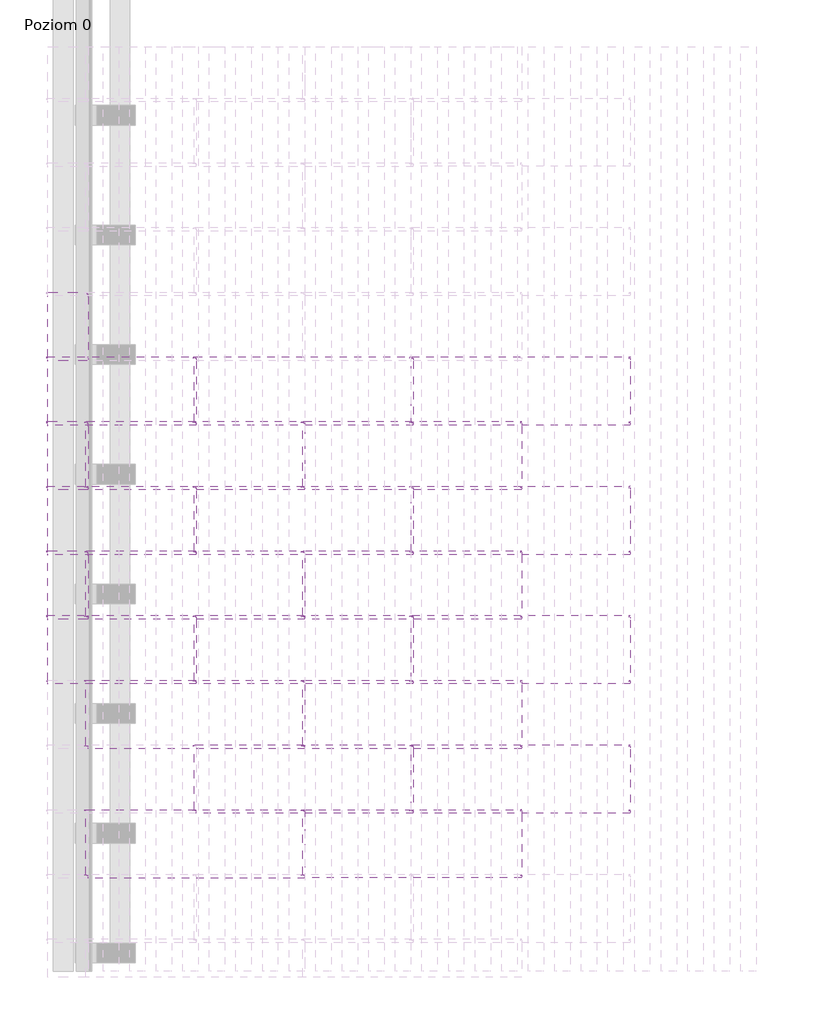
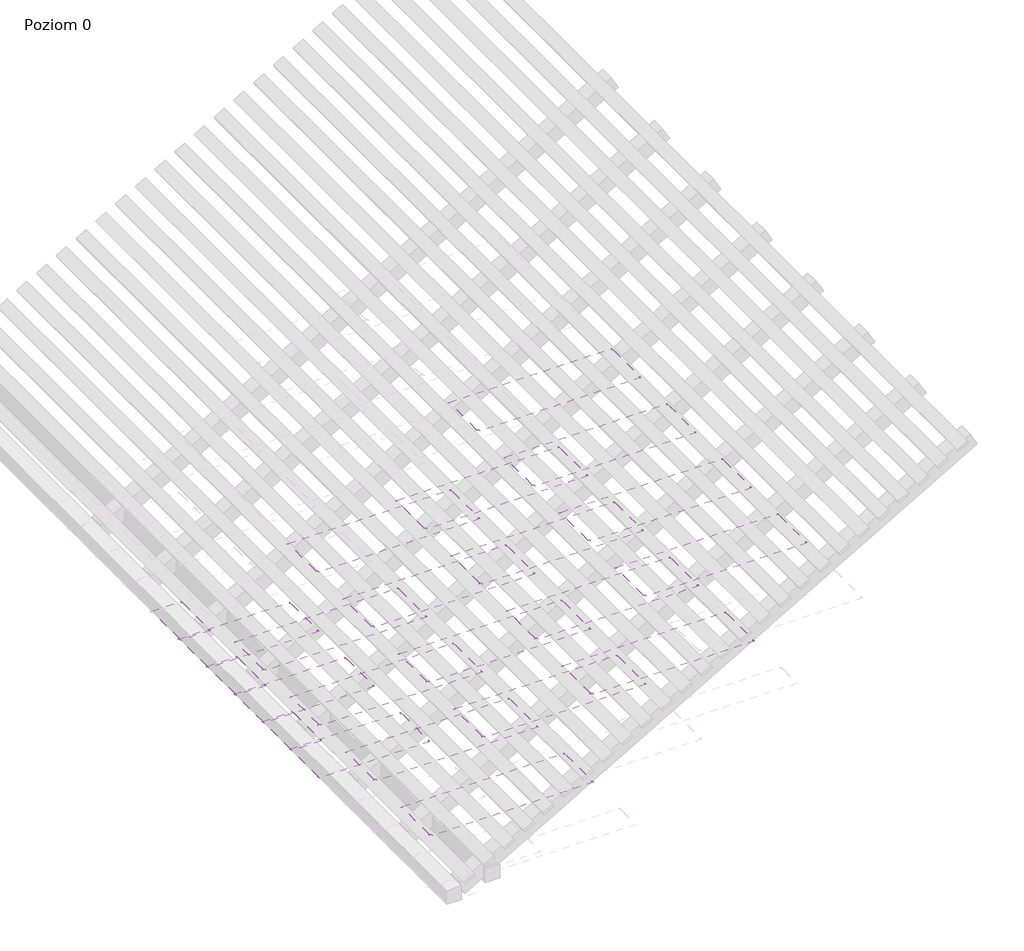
# One storey, part 2 of 4: 22 coverings.
"""IFC4 building model written with IfcOpenShell, lengths in millimetres."""

from ifc_helpers import new_model, si_unit, point, frame, frame_2d, origin, place, context, project, spatial, polyline, circle_curve, trimmed, segment, composite_curve, outline, extrude, transform, mapped, element, save
from components import covering_053faf2b

model = new_model("IFC4")

# Units and contexts
model_context = context("Model", 3, world=origin())
ifc_project = project(units=[si_unit("LENGTHUNIT", "METRE", prefix="MILLI")], contexts=[model_context])

# Site, building, storey
site = spatial("IfcSite", under=ifc_project)
building = spatial("IfcBuilding", under=site)
storey = spatial("IfcBuildingStorey", under=building, Name="Poziom 0", Elevation=0.0)

# Coverings
placement = place(None, origin())
element("IfcCovering", 1, ObjectType="Zintegrowany dach fotowoltaiczny FIT L.P (pojedynczy arkusz) : Zintegrowany dach fotowoltaiczny FIT L.P (pojedynczy arkusz)", at=placement, inside=storey, context=model_context, shape_type="SweptSolid", body=[
    extrude(outline(composite_curve([segment(polyline([(288.0882052, -764.3254516), (270.8006701, -764.3254516)]), True, "CONTINUOUS"), segment(trimmed(circle_curve(frame_2d((270.8006701, -767.1254516)), 2.8), [point((270.8006701, -764.3254516))], [point((268.0006701, -767.1254516))], True, "CARTESIAN"), True, "CONTINUOUS"), segment(polyline([(268.0006701, -767.1254516), (268.0006701, -784.9194843)]), True, "CONTINUOUS"), segment(trimmed(circle_curve(frame_2d((266.3873432, -784.7092324)), 1.6269694), [point((268.0006701, -784.9194843))], [point((264.9716419, -785.5109926))], False, "CARTESIAN"), True, "CONTINUOUS"), segment(polyline([(264.9716419, -785.5109926), (259.5147607, -772.9478756)]), True, "CONTINUOUS"), segment(trimmed(circle_curve(frame_2d((261.4782052, -771.7500084)), 2.3), [point((259.5147607, -772.9478756))], [point((260.424286, -769.705686))], False, "CARTESIAN"), True, "CONTINUOUS"), segment(polyline([(260.424286, -769.705686), (262.0969852, -769.0301624)]), True, "CONTINUOUS"), segment(trimmed(circle_curve(frame_2d((261.7598094, -768.195264)), 0.9004126), [point((262.0969852, -769.0301624))], [point((262.5492444, -767.7622108))], True, "CARTESIAN"), True, "CONTINUOUS"), segment(polyline([(262.5492444, -767.7622108), (260.6639723, -764.3254516), (-231.6728378, -764.3254516), (-233.6728378, -766.3254516), (-256.2638552, -766.3254516)]), True, "CONTINUOUS"), segment(trimmed(circle_curve(frame_2d((-256.2638552, -767.1498016)), 0.82435), [point((-256.2638552, -766.3254516))], [point((-257.0882052, -767.1498016))], True, "CARTESIAN"), True, "CONTINUOUS"), segment(polyline([(-257.0882052, -767.1498016), (-257.0882052, -785.8254516)]), True, "CONTINUOUS"), segment(trimmed(circle_curve(frame_2d((-259.0882052, -785.8254516)), 2.0), [point((-257.0882052, -785.8254516))], [point((-259.0882052, -787.8254516))], False, "CARTESIAN"), True, "CONTINUOUS"), segment(polyline([(-259.0882052, -787.8254516), (-267.9117948, -787.8254516)]), True, "CONTINUOUS"), segment(trimmed(circle_curve(frame_2d((-267.9117948, -785.8254516)), 2.0), [point((-267.9117948, -787.8254516))], [point((-269.9117948, -785.8254516))], False, "CARTESIAN"), True, "CONTINUOUS"), segment(polyline([(-269.9117948, -785.8254516), (-269.9117948, -771.7500084)]), True, "CONTINUOUS"), segment(trimmed(circle_curve(frame_2d((-266.1117948, -771.7500084)), 3.8), [point((-269.9117948, -771.7500084))], [point((-267.8014079, -768.3463036))], False, "CARTESIAN"), True, "CONTINUOUS"), segment(trimmed(circle_curve(frame_2d((-268.3170787, -767.3074911)), 1.1597619), [point((-267.8014079, -768.3463036))], [point((-267.171889, -767.1242207))], True, "CARTESIAN"), True, "CONTINUOUS"), segment(polyline([(-267.171889, -767.1242207), (-268.0083048, -765.5994754), (-267.1315567, -765.1185255), (-266.299575, -766.6351876)]), True, "CONTINUOUS"), segment(trimmed(circle_curve(frame_2d((-267.8170787, -767.3074911)), 1.6597619), [point((-266.299575, -766.6351876))], [point((-267.0790904, -768.7941595))], False, "CARTESIAN"), True, "CONTINUOUS"), segment(trimmed(circle_curve(frame_2d((-265.6117948, -771.7500084)), 3.3), [point((-267.0790904, -768.7941595))], [point((-268.9117948, -771.7500084))], True, "CARTESIAN"), True, "CONTINUOUS"), segment(polyline([(-268.9117948, -771.7500084), (-268.9117948, -785.3254516)]), True, "CONTINUOUS"), segment(trimmed(circle_curve(frame_2d((-267.4117948, -785.3254516)), 1.5), [point((-268.9117948, -785.3254516))], [point((-267.4117948, -786.8254516))], True, "CARTESIAN"), True, "CONTINUOUS"), segment(polyline([(-267.4117948, -786.8254516), (-259.5882052, -786.8254516)]), True, "CONTINUOUS"), segment(trimmed(circle_curve(frame_2d((-259.5882052, -785.3254516)), 1.5), [point((-259.5882052, -786.8254516))], [point((-258.0882052, -785.3254516))], True, "CARTESIAN"), True, "CONTINUOUS"), segment(polyline([(-258.0882052, -785.3254516), (-258.0882052, -767.0618312)]), True, "CONTINUOUS"), segment(trimmed(circle_curve(frame_2d((-256.2893299, -767.1254516)), 1.8), [point((-258.0882052, -767.0618312))], [point((-256.2893299, -765.3254516))], False, "CARTESIAN"), True, "CONTINUOUS"), segment(polyline([(-256.2893299, -765.3254516), (-234.0870514, -765.3254516), (-232.0870514, -763.3254516), (260.3034181, -763.3254516)]), True, "CONTINUOUS"), segment(trimmed(circle_curve(frame_2d((260.0800912, -765.3129437)), 2.0), [point((260.3034181, -763.3254516))], [point((261.7119395, -764.1566258))], False, "CARTESIAN"), True, "CONTINUOUS"), segment(polyline([(261.7119395, -764.1566258), (263.6966367, -767.774632)]), True, "CONTINUOUS"), segment(trimmed(circle_curve(frame_2d((262.4688276, -768.4481602)), 1.4004126), [point((263.6966367, -767.774632))], [point((262.9932374, -769.7466784))], False, "CARTESIAN"), True, "CONTINUOUS"), segment(polyline([(262.9932374, -769.7466784), (260.8475944, -770.6132015)]), True, "CONTINUOUS"), segment(trimmed(circle_curve(frame_2d((261.4782052, -771.7500084)), 1.3), [point((260.8475944, -770.6132015))], [point((260.4005072, -772.4770346))], True, "CARTESIAN"), True, "CONTINUOUS"), segment(polyline([(260.4005072, -772.4770346), (265.8628688, -785.0527688)]), True, "CONTINUOUS"), segment(trimmed(circle_curve(frame_2d((266.3873432, -784.7092324)), 0.6269694), [point((265.8628688, -785.0527688))], [point((267.0006701, -784.8393124))], True, "CARTESIAN"), True, "CONTINUOUS"), segment(polyline([(267.0006701, -784.8393124), (267.0006701, -767.1254516)]), True, "CONTINUOUS"), segment(trimmed(circle_curve(frame_2d((270.8006701, -767.1254516)), 3.8), [point((267.0006701, -767.1254516))], [point((270.8006701, -763.3254516))], False, "CARTESIAN"), True, "CONTINUOUS"), segment(polyline([(270.8006701, -763.3254516), (288.0882052, -763.3254516), (288.0882052, -764.3254516)]), True, "CONTINUOUS")], self_intersect=False)), frame((-4646.3009837, -6022.7095918, 351.3905312), z_axis=(0.8660254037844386, 0.0, 0.5000000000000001), x_axis=(0.0, -1.0, 0.0)), (0.0, 0.0, 1.0), 1396.4773133),
])
element("IfcCovering", 2, ObjectType="Zintegrowany dach fotowoltaiczny FIT L.P (pojedynczy arkusz) : Zintegrowany dach fotowoltaiczny FIT L.P (pojedynczy arkusz)", at=placement, inside=storey, context=model_context, shape_type="SweptSolid", body=[
    extrude(outline(composite_curve([segment(polyline([(288.0882052, -234.3179044), (270.8006701, -234.3179044)]), True, "CONTINUOUS"), segment(trimmed(circle_curve(frame_2d((270.8006701, -237.1179045)), 2.8), [point((270.8006701, -234.3179044))], [point((268.0006701, -237.1179045))], True, "CARTESIAN"), True, "CONTINUOUS"), segment(polyline([(268.0006701, -237.1179045), (268.0006701, -254.9119372)]), True, "CONTINUOUS"), segment(trimmed(circle_curve(frame_2d((266.3873432, -254.7016853)), 1.6269694), [point((268.0006701, -254.9119372))], [point((264.9716419, -255.5034454))], False, "CARTESIAN"), True, "CONTINUOUS"), segment(polyline([(264.9716419, -255.5034454), (259.5147607, -242.9403285)]), True, "CONTINUOUS"), segment(trimmed(circle_curve(frame_2d((261.4782052, -241.7424613)), 2.3), [point((259.5147607, -242.9403285))], [point((260.424286, -239.6981389))], False, "CARTESIAN"), True, "CONTINUOUS"), segment(polyline([(260.424286, -239.6981389), (262.0969852, -239.0226153)]), True, "CONTINUOUS"), segment(trimmed(circle_curve(frame_2d((261.7598094, -238.1877169)), 0.9004126), [point((262.0969852, -239.0226153))], [point((262.5492444, -237.7546636))], True, "CARTESIAN"), True, "CONTINUOUS"), segment(polyline([(262.5492444, -237.7546636), (260.6639723, -234.3179044), (-231.6728378, -234.3179044), (-233.6728378, -236.3179044), (-256.2638552, -236.3179044)]), True, "CONTINUOUS"), segment(trimmed(circle_curve(frame_2d((-256.2638552, -237.1422545)), 0.82435), [point((-256.2638552, -236.3179044))], [point((-257.0882052, -237.1422545))], True, "CARTESIAN"), True, "CONTINUOUS"), segment(polyline([(-257.0882052, -237.1422545), (-257.0882052, -255.8179044)]), True, "CONTINUOUS"), segment(trimmed(circle_curve(frame_2d((-259.0882052, -255.8179044)), 2.0), [point((-257.0882052, -255.8179044))], [point((-259.0882052, -257.8179044))], False, "CARTESIAN"), True, "CONTINUOUS"), segment(polyline([(-259.0882052, -257.8179044), (-267.9117948, -257.8179044)]), True, "CONTINUOUS"), segment(trimmed(circle_curve(frame_2d((-267.9117948, -255.8179044)), 2.0), [point((-267.9117948, -257.8179044))], [point((-269.9117948, -255.8179044))], False, "CARTESIAN"), True, "CONTINUOUS"), segment(polyline([(-269.9117948, -255.8179044), (-269.9117948, -241.7424613)]), True, "CONTINUOUS"), segment(trimmed(circle_curve(frame_2d((-266.1117948, -241.7424613)), 3.8), [point((-269.9117948, -241.7424613))], [point((-267.8014079, -238.3387564))], False, "CARTESIAN"), True, "CONTINUOUS"), segment(trimmed(circle_curve(frame_2d((-268.3170787, -237.2999439)), 1.1597619), [point((-267.8014079, -238.3387564))], [point((-267.171889, -237.1166736))], True, "CARTESIAN"), True, "CONTINUOUS"), segment(polyline([(-267.171889, -237.1166736), (-268.0083048, -235.5919282), (-267.1315567, -235.1109783), (-266.299575, -236.6276405)]), True, "CONTINUOUS"), segment(trimmed(circle_curve(frame_2d((-267.8170787, -237.2999439)), 1.6597619), [point((-266.299575, -236.6276405))], [point((-267.0790904, -238.7866123))], False, "CARTESIAN"), True, "CONTINUOUS"), segment(trimmed(circle_curve(frame_2d((-265.6117948, -241.7424613)), 3.3), [point((-267.0790904, -238.7866123))], [point((-268.9117948, -241.7424613))], True, "CARTESIAN"), True, "CONTINUOUS"), segment(polyline([(-268.9117948, -241.7424613), (-268.9117948, -255.3179044)]), True, "CONTINUOUS"), segment(trimmed(circle_curve(frame_2d((-267.4117948, -255.3179044)), 1.5), [point((-268.9117948, -255.3179044))], [point((-267.4117948, -256.8179044))], True, "CARTESIAN"), True, "CONTINUOUS"), segment(polyline([(-267.4117948, -256.8179044), (-259.5882052, -256.8179044)]), True, "CONTINUOUS"), segment(trimmed(circle_curve(frame_2d((-259.5882052, -255.3179044)), 1.5), [point((-259.5882052, -256.8179044))], [point((-258.0882052, -255.3179044))], True, "CARTESIAN"), True, "CONTINUOUS"), segment(polyline([(-258.0882052, -255.3179044), (-258.0882052, -237.0542841)]), True, "CONTINUOUS"), segment(trimmed(circle_curve(frame_2d((-256.2893299, -237.1179045)), 1.8), [point((-258.0882052, -237.0542841))], [point((-256.2893299, -235.3179044))], False, "CARTESIAN"), True, "CONTINUOUS"), segment(polyline([(-256.2893299, -235.3179044), (-234.0870514, -235.3179044), (-232.0870514, -233.3179044), (260.3034181, -233.3179044)]), True, "CONTINUOUS"), segment(trimmed(circle_curve(frame_2d((260.0800912, -235.3053966)), 2.0), [point((260.3034181, -233.3179044))], [point((261.7119395, -234.1490787))], False, "CARTESIAN"), True, "CONTINUOUS"), segment(polyline([(261.7119395, -234.1490787), (263.6966367, -237.7670849)]), True, "CONTINUOUS"), segment(trimmed(circle_curve(frame_2d((262.4688276, -238.440613)), 1.4004126), [point((263.6966367, -237.7670849))], [point((262.9932374, -239.7391313))], False, "CARTESIAN"), True, "CONTINUOUS"), segment(polyline([(262.9932374, -239.7391313), (260.8475944, -240.6056544)]), True, "CONTINUOUS"), segment(trimmed(circle_curve(frame_2d((261.4782052, -241.7424613)), 1.3), [point((260.8475944, -240.6056544))], [point((260.4005072, -242.4694875))], True, "CARTESIAN"), True, "CONTINUOUS"), segment(polyline([(260.4005072, -242.4694875), (265.8628688, -255.0452217)]), True, "CONTINUOUS"), segment(trimmed(circle_curve(frame_2d((266.3873432, -254.7016853)), 0.6269694), [point((265.8628688, -255.0452217))], [point((267.0006701, -254.8317652))], True, "CARTESIAN"), True, "CONTINUOUS"), segment(polyline([(267.0006701, -254.8317652), (267.0006701, -237.1179045)]), True, "CONTINUOUS"), segment(trimmed(circle_curve(frame_2d((270.8006701, -237.1179045)), 3.8), [point((267.0006701, -237.1179045))], [point((270.8006701, -233.3179044))], False, "CARTESIAN"), True, "CONTINUOUS"), segment(polyline([(270.8006701, -233.3179044), (288.0882052, -233.3179044), (288.0882052, -234.3179044)]), True, "CONTINUOUS")], self_intersect=False)), frame((-4911.3047573, -5495.7095918, 810.3905312), z_axis=(0.8660254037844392, 0.0, 0.4999999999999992), x_axis=(0.0, -1.0, 0.0)), (0.0, 0.0, 1.0), 376.4773133),
])
element("IfcCovering", 3, ObjectType="Zintegrowany dach fotowoltaiczny FIT L.P (pojedynczy arkusz) : Zintegrowany dach fotowoltaiczny FIT L.P (pojedynczy arkusz)", at=placement, inside=storey, context=model_context, shape_type="SweptSolid", body=[
    extrude(outline(composite_curve([segment(polyline([(288.0882052, -764.3254516), (270.8006701, -764.3254516)]), True, "CONTINUOUS"), segment(trimmed(circle_curve(frame_2d((270.8006701, -767.1254516)), 2.8), [point((270.8006701, -764.3254516))], [point((268.0006701, -767.1254516))], True, "CARTESIAN"), True, "CONTINUOUS"), segment(polyline([(268.0006701, -767.1254516), (268.0006701, -784.9194843)]), True, "CONTINUOUS"), segment(trimmed(circle_curve(frame_2d((266.3873432, -784.7092324)), 1.6269694), [point((268.0006701, -784.9194843))], [point((264.9716419, -785.5109926))], False, "CARTESIAN"), True, "CONTINUOUS"), segment(polyline([(264.9716419, -785.5109926), (259.5147607, -772.9478756)]), True, "CONTINUOUS"), segment(trimmed(circle_curve(frame_2d((261.4782052, -771.7500084)), 2.3), [point((259.5147607, -772.9478756))], [point((260.424286, -769.705686))], False, "CARTESIAN"), True, "CONTINUOUS"), segment(polyline([(260.424286, -769.705686), (262.0969852, -769.0301624)]), True, "CONTINUOUS"), segment(trimmed(circle_curve(frame_2d((261.7598094, -768.195264)), 0.9004126), [point((262.0969852, -769.0301624))], [point((262.5492444, -767.7622108))], True, "CARTESIAN"), True, "CONTINUOUS"), segment(polyline([(262.5492444, -767.7622108), (260.6639723, -764.3254516), (-231.6728378, -764.3254516), (-233.6728378, -766.3254516), (-256.2638552, -766.3254516)]), True, "CONTINUOUS"), segment(trimmed(circle_curve(frame_2d((-256.2638552, -767.1498016)), 0.82435), [point((-256.2638552, -766.3254516))], [point((-257.0882052, -767.1498016))], True, "CARTESIAN"), True, "CONTINUOUS"), segment(polyline([(-257.0882052, -767.1498016), (-257.0882052, -785.8254516)]), True, "CONTINUOUS"), segment(trimmed(circle_curve(frame_2d((-259.0882052, -785.8254516)), 2.0), [point((-257.0882052, -785.8254516))], [point((-259.0882052, -787.8254516))], False, "CARTESIAN"), True, "CONTINUOUS"), segment(polyline([(-259.0882052, -787.8254516), (-267.9117948, -787.8254516)]), True, "CONTINUOUS"), segment(trimmed(circle_curve(frame_2d((-267.9117948, -785.8254516)), 2.0), [point((-267.9117948, -787.8254516))], [point((-269.9117948, -785.8254516))], False, "CARTESIAN"), True, "CONTINUOUS"), segment(polyline([(-269.9117948, -785.8254516), (-269.9117948, -771.7500084)]), True, "CONTINUOUS"), segment(trimmed(circle_curve(frame_2d((-266.1117948, -771.7500084)), 3.8), [point((-269.9117948, -771.7500084))], [point((-267.8014079, -768.3463036))], False, "CARTESIAN"), True, "CONTINUOUS"), segment(trimmed(circle_curve(frame_2d((-268.3170787, -767.3074911)), 1.1597619), [point((-267.8014079, -768.3463036))], [point((-267.171889, -767.1242207))], True, "CARTESIAN"), True, "CONTINUOUS"), segment(polyline([(-267.171889, -767.1242207), (-268.0083048, -765.5994754), (-267.1315567, -765.1185255), (-266.299575, -766.6351876)]), True, "CONTINUOUS"), segment(trimmed(circle_curve(frame_2d((-267.8170787, -767.3074911)), 1.6597619), [point((-266.299575, -766.6351876))], [point((-267.0790904, -768.7941595))], False, "CARTESIAN"), True, "CONTINUOUS"), segment(trimmed(circle_curve(frame_2d((-265.6117948, -771.7500084)), 3.3), [point((-267.0790904, -768.7941595))], [point((-268.9117948, -771.7500084))], True, "CARTESIAN"), True, "CONTINUOUS"), segment(polyline([(-268.9117948, -771.7500084), (-268.9117948, -785.3254516)]), True, "CONTINUOUS"), segment(trimmed(circle_curve(frame_2d((-267.4117948, -785.3254516)), 1.5), [point((-268.9117948, -785.3254516))], [point((-267.4117948, -786.8254516))], True, "CARTESIAN"), True, "CONTINUOUS"), segment(polyline([(-267.4117948, -786.8254516), (-259.5882052, -786.8254516)]), True, "CONTINUOUS"), segment(trimmed(circle_curve(frame_2d((-259.5882052, -785.3254516)), 1.5), [point((-259.5882052, -786.8254516))], [point((-258.0882052, -785.3254516))], True, "CARTESIAN"), True, "CONTINUOUS"), segment(polyline([(-258.0882052, -785.3254516), (-258.0882052, -767.0618312)]), True, "CONTINUOUS"), segment(trimmed(circle_curve(frame_2d((-256.2893299, -767.1254516)), 1.8), [point((-258.0882052, -767.0618312))], [point((-256.2893299, -765.3254516))], False, "CARTESIAN"), True, "CONTINUOUS"), segment(polyline([(-256.2893299, -765.3254516), (-234.0870514, -765.3254516), (-232.0870514, -763.3254516), (260.3034181, -763.3254516)]), True, "CONTINUOUS"), segment(trimmed(circle_curve(frame_2d((260.0800912, -765.3129437)), 2.0), [point((260.3034181, -763.3254516))], [point((261.7119395, -764.1566258))], False, "CARTESIAN"), True, "CONTINUOUS"), segment(polyline([(261.7119395, -764.1566258), (263.6966367, -767.774632)]), True, "CONTINUOUS"), segment(trimmed(circle_curve(frame_2d((262.4688276, -768.4481602)), 1.4004126), [point((263.6966367, -767.774632))], [point((262.9932374, -769.7466784))], False, "CARTESIAN"), True, "CONTINUOUS"), segment(polyline([(262.9932374, -769.7466784), (260.8475944, -770.6132015)]), True, "CONTINUOUS"), segment(trimmed(circle_curve(frame_2d((261.4782052, -771.7500084)), 1.3), [point((260.8475944, -770.6132015))], [point((260.4005072, -772.4770346))], True, "CARTESIAN"), True, "CONTINUOUS"), segment(polyline([(260.4005072, -772.4770346), (265.8628688, -785.0527688)]), True, "CONTINUOUS"), segment(trimmed(circle_curve(frame_2d((266.3873432, -784.7092324)), 0.6269694), [point((265.8628688, -785.0527688))], [point((267.0006701, -784.8393124))], True, "CARTESIAN"), True, "CONTINUOUS"), segment(polyline([(267.0006701, -784.8393124), (267.0006701, -767.1254516)]), True, "CONTINUOUS"), segment(trimmed(circle_curve(frame_2d((270.8006701, -767.1254516)), 3.8), [point((267.0006701, -767.1254516))], [point((270.8006701, -763.3254516))], False, "CARTESIAN"), True, "CONTINUOUS"), segment(polyline([(270.8006701, -763.3254516), (288.0882052, -763.3254516), (288.0882052, -764.3254516)]), True, "CONTINUOUS")], self_intersect=False)), frame((-4646.3009837, -4968.7095918, 351.3905312), z_axis=(0.8660254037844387, 0.0, 0.49999999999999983), x_axis=(0.0, -1.0, 0.0)), (0.0, 0.0, 1.0), 1396.4773133),
])
element("IfcCovering", 4, ObjectType="Zintegrowany dach fotowoltaiczny FIT L.P (pojedynczy arkusz) : Zintegrowany dach fotowoltaiczny FIT L.P (pojedynczy arkusz)", at=placement, inside=storey, context=model_context, shape_type="SweptSolid", body=[
    extrude(outline(composite_curve([segment(polyline([(288.0882052, -234.3179044), (270.8006701, -234.3179044)]), True, "CONTINUOUS"), segment(trimmed(circle_curve(frame_2d((270.8006701, -237.1179045)), 2.8), [point((270.8006701, -234.3179044))], [point((268.0006701, -237.1179045))], True, "CARTESIAN"), True, "CONTINUOUS"), segment(polyline([(268.0006701, -237.1179045), (268.0006701, -254.9119372)]), True, "CONTINUOUS"), segment(trimmed(circle_curve(frame_2d((266.3873432, -254.7016853)), 1.6269694), [point((268.0006701, -254.9119372))], [point((264.9716419, -255.5034454))], False, "CARTESIAN"), True, "CONTINUOUS"), segment(polyline([(264.9716419, -255.5034454), (259.5147607, -242.9403285)]), True, "CONTINUOUS"), segment(trimmed(circle_curve(frame_2d((261.4782052, -241.7424613)), 2.3), [point((259.5147607, -242.9403285))], [point((260.424286, -239.6981389))], False, "CARTESIAN"), True, "CONTINUOUS"), segment(polyline([(260.424286, -239.6981389), (262.0969852, -239.0226153)]), True, "CONTINUOUS"), segment(trimmed(circle_curve(frame_2d((261.7598094, -238.1877169)), 0.9004126), [point((262.0969852, -239.0226153))], [point((262.5492444, -237.7546636))], True, "CARTESIAN"), True, "CONTINUOUS"), segment(polyline([(262.5492444, -237.7546636), (260.6639723, -234.3179044), (-231.6728378, -234.3179044), (-233.6728378, -236.3179044), (-256.2638552, -236.3179044)]), True, "CONTINUOUS"), segment(trimmed(circle_curve(frame_2d((-256.2638552, -237.1422545)), 0.82435), [point((-256.2638552, -236.3179044))], [point((-257.0882052, -237.1422545))], True, "CARTESIAN"), True, "CONTINUOUS"), segment(polyline([(-257.0882052, -237.1422545), (-257.0882052, -255.8179044)]), True, "CONTINUOUS"), segment(trimmed(circle_curve(frame_2d((-259.0882052, -255.8179044)), 2.0), [point((-257.0882052, -255.8179044))], [point((-259.0882052, -257.8179044))], False, "CARTESIAN"), True, "CONTINUOUS"), segment(polyline([(-259.0882052, -257.8179044), (-267.9117948, -257.8179044)]), True, "CONTINUOUS"), segment(trimmed(circle_curve(frame_2d((-267.9117948, -255.8179044)), 2.0), [point((-267.9117948, -257.8179044))], [point((-269.9117948, -255.8179044))], False, "CARTESIAN"), True, "CONTINUOUS"), segment(polyline([(-269.9117948, -255.8179044), (-269.9117948, -241.7424613)]), True, "CONTINUOUS"), segment(trimmed(circle_curve(frame_2d((-266.1117948, -241.7424613)), 3.8), [point((-269.9117948, -241.7424613))], [point((-267.8014079, -238.3387564))], False, "CARTESIAN"), True, "CONTINUOUS"), segment(trimmed(circle_curve(frame_2d((-268.3170787, -237.2999439)), 1.1597619), [point((-267.8014079, -238.3387564))], [point((-267.171889, -237.1166736))], True, "CARTESIAN"), True, "CONTINUOUS"), segment(polyline([(-267.171889, -237.1166736), (-268.0083048, -235.5919282), (-267.1315567, -235.1109783), (-266.299575, -236.6276405)]), True, "CONTINUOUS"), segment(trimmed(circle_curve(frame_2d((-267.8170787, -237.2999439)), 1.6597619), [point((-266.299575, -236.6276405))], [point((-267.0790904, -238.7866123))], False, "CARTESIAN"), True, "CONTINUOUS"), segment(trimmed(circle_curve(frame_2d((-265.6117948, -241.7424613)), 3.3), [point((-267.0790904, -238.7866123))], [point((-268.9117948, -241.7424613))], True, "CARTESIAN"), True, "CONTINUOUS"), segment(polyline([(-268.9117948, -241.7424613), (-268.9117948, -255.3179044)]), True, "CONTINUOUS"), segment(trimmed(circle_curve(frame_2d((-267.4117948, -255.3179044)), 1.5), [point((-268.9117948, -255.3179044))], [point((-267.4117948, -256.8179044))], True, "CARTESIAN"), True, "CONTINUOUS"), segment(polyline([(-267.4117948, -256.8179044), (-259.5882052, -256.8179044)]), True, "CONTINUOUS"), segment(trimmed(circle_curve(frame_2d((-259.5882052, -255.3179044)), 1.5), [point((-259.5882052, -256.8179044))], [point((-258.0882052, -255.3179044))], True, "CARTESIAN"), True, "CONTINUOUS"), segment(polyline([(-258.0882052, -255.3179044), (-258.0882052, -237.0542841)]), True, "CONTINUOUS"), segment(trimmed(circle_curve(frame_2d((-256.2893299, -237.1179045)), 1.8), [point((-258.0882052, -237.0542841))], [point((-256.2893299, -235.3179044))], False, "CARTESIAN"), True, "CONTINUOUS"), segment(polyline([(-256.2893299, -235.3179044), (-234.0870514, -235.3179044), (-232.0870514, -233.3179044), (260.3034181, -233.3179044)]), True, "CONTINUOUS"), segment(trimmed(circle_curve(frame_2d((260.0800912, -235.3053966)), 2.0), [point((260.3034181, -233.3179044))], [point((261.7119395, -234.1490787))], False, "CARTESIAN"), True, "CONTINUOUS"), segment(polyline([(261.7119395, -234.1490787), (263.6966367, -237.7670849)]), True, "CONTINUOUS"), segment(trimmed(circle_curve(frame_2d((262.4688276, -238.440613)), 1.4004126), [point((263.6966367, -237.7670849))], [point((262.9932374, -239.7391313))], False, "CARTESIAN"), True, "CONTINUOUS"), segment(polyline([(262.9932374, -239.7391313), (260.8475944, -240.6056544)]), True, "CONTINUOUS"), segment(trimmed(circle_curve(frame_2d((261.4782052, -241.7424613)), 1.3), [point((260.8475944, -240.6056544))], [point((260.4005072, -242.4694875))], True, "CARTESIAN"), True, "CONTINUOUS"), segment(polyline([(260.4005072, -242.4694875), (265.8628688, -255.0452217)]), True, "CONTINUOUS"), segment(trimmed(circle_curve(frame_2d((266.3873432, -254.7016853)), 0.6269694), [point((265.8628688, -255.0452217))], [point((267.0006701, -254.8317652))], True, "CARTESIAN"), True, "CONTINUOUS"), segment(polyline([(267.0006701, -254.8317652), (267.0006701, -237.1179045)]), True, "CONTINUOUS"), segment(trimmed(circle_curve(frame_2d((270.8006701, -237.1179045)), 3.8), [point((267.0006701, -237.1179045))], [point((270.8006701, -233.3179044))], False, "CARTESIAN"), True, "CONTINUOUS"), segment(polyline([(270.8006701, -233.3179044), (288.0882052, -233.3179044), (288.0882052, -234.3179044)]), True, "CONTINUOUS")], self_intersect=False)), frame((-4911.3047573, -4441.7095918, 810.3905312), z_axis=(0.8660254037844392, 0.0, 0.4999999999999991), x_axis=(0.0, -1.0, 0.0)), (0.0, 0.0, 1.0), 376.4773133),
])
element("IfcCovering", 5, ObjectType="Zintegrowany dach fotowoltaiczny FIT L.P (pojedynczy arkusz) : Zintegrowany dach fotowoltaiczny FIT L.P (pojedynczy arkusz)", at=placement, inside=storey, context=model_context, shape_type="SweptSolid", body=[
    extrude(outline(composite_curve([segment(polyline([(288.0882052, -764.3254516), (270.8006701, -764.3254516)]), True, "CONTINUOUS"), segment(trimmed(circle_curve(frame_2d((270.8006701, -767.1254516)), 2.8), [point((270.8006701, -764.3254516))], [point((268.0006701, -767.1254516))], True, "CARTESIAN"), True, "CONTINUOUS"), segment(polyline([(268.0006701, -767.1254516), (268.0006701, -784.9194843)]), True, "CONTINUOUS"), segment(trimmed(circle_curve(frame_2d((266.3873432, -784.7092324)), 1.6269694), [point((268.0006701, -784.9194843))], [point((264.9716419, -785.5109926))], False, "CARTESIAN"), True, "CONTINUOUS"), segment(polyline([(264.9716419, -785.5109926), (259.5147607, -772.9478756)]), True, "CONTINUOUS"), segment(trimmed(circle_curve(frame_2d((261.4782052, -771.7500084)), 2.3), [point((259.5147607, -772.9478756))], [point((260.424286, -769.705686))], False, "CARTESIAN"), True, "CONTINUOUS"), segment(polyline([(260.424286, -769.705686), (262.0969852, -769.0301624)]), True, "CONTINUOUS"), segment(trimmed(circle_curve(frame_2d((261.7598094, -768.195264)), 0.9004126), [point((262.0969852, -769.0301624))], [point((262.5492444, -767.7622108))], True, "CARTESIAN"), True, "CONTINUOUS"), segment(polyline([(262.5492444, -767.7622108), (260.6639723, -764.3254516), (-231.6728378, -764.3254516), (-233.6728378, -766.3254516), (-256.2638552, -766.3254516)]), True, "CONTINUOUS"), segment(trimmed(circle_curve(frame_2d((-256.2638552, -767.1498016)), 0.82435), [point((-256.2638552, -766.3254516))], [point((-257.0882052, -767.1498016))], True, "CARTESIAN"), True, "CONTINUOUS"), segment(polyline([(-257.0882052, -767.1498016), (-257.0882052, -785.8254516)]), True, "CONTINUOUS"), segment(trimmed(circle_curve(frame_2d((-259.0882052, -785.8254516)), 2.0), [point((-257.0882052, -785.8254516))], [point((-259.0882052, -787.8254516))], False, "CARTESIAN"), True, "CONTINUOUS"), segment(polyline([(-259.0882052, -787.8254516), (-267.9117948, -787.8254516)]), True, "CONTINUOUS"), segment(trimmed(circle_curve(frame_2d((-267.9117948, -785.8254516)), 2.0), [point((-267.9117948, -787.8254516))], [point((-269.9117948, -785.8254516))], False, "CARTESIAN"), True, "CONTINUOUS"), segment(polyline([(-269.9117948, -785.8254516), (-269.9117948, -771.7500084)]), True, "CONTINUOUS"), segment(trimmed(circle_curve(frame_2d((-266.1117948, -771.7500084)), 3.8), [point((-269.9117948, -771.7500084))], [point((-267.8014079, -768.3463036))], False, "CARTESIAN"), True, "CONTINUOUS"), segment(trimmed(circle_curve(frame_2d((-268.3170787, -767.3074911)), 1.1597619), [point((-267.8014079, -768.3463036))], [point((-267.171889, -767.1242207))], True, "CARTESIAN"), True, "CONTINUOUS"), segment(polyline([(-267.171889, -767.1242207), (-268.0083048, -765.5994754), (-267.1315567, -765.1185255), (-266.299575, -766.6351876)]), True, "CONTINUOUS"), segment(trimmed(circle_curve(frame_2d((-267.8170787, -767.3074911)), 1.6597619), [point((-266.299575, -766.6351876))], [point((-267.0790904, -768.7941595))], False, "CARTESIAN"), True, "CONTINUOUS"), segment(trimmed(circle_curve(frame_2d((-265.6117948, -771.7500084)), 3.3), [point((-267.0790904, -768.7941595))], [point((-268.9117948, -771.7500084))], True, "CARTESIAN"), True, "CONTINUOUS"), segment(polyline([(-268.9117948, -771.7500084), (-268.9117948, -785.3254516)]), True, "CONTINUOUS"), segment(trimmed(circle_curve(frame_2d((-267.4117948, -785.3254516)), 1.5), [point((-268.9117948, -785.3254516))], [point((-267.4117948, -786.8254516))], True, "CARTESIAN"), True, "CONTINUOUS"), segment(polyline([(-267.4117948, -786.8254516), (-259.5882052, -786.8254516)]), True, "CONTINUOUS"), segment(trimmed(circle_curve(frame_2d((-259.5882052, -785.3254516)), 1.5), [point((-259.5882052, -786.8254516))], [point((-258.0882052, -785.3254516))], True, "CARTESIAN"), True, "CONTINUOUS"), segment(polyline([(-258.0882052, -785.3254516), (-258.0882052, -767.0618312)]), True, "CONTINUOUS"), segment(trimmed(circle_curve(frame_2d((-256.2893299, -767.1254516)), 1.8), [point((-258.0882052, -767.0618312))], [point((-256.2893299, -765.3254516))], False, "CARTESIAN"), True, "CONTINUOUS"), segment(polyline([(-256.2893299, -765.3254516), (-234.0870514, -765.3254516), (-232.0870514, -763.3254516), (260.3034181, -763.3254516)]), True, "CONTINUOUS"), segment(trimmed(circle_curve(frame_2d((260.0800912, -765.3129437)), 2.0), [point((260.3034181, -763.3254516))], [point((261.7119395, -764.1566258))], False, "CARTESIAN"), True, "CONTINUOUS"), segment(polyline([(261.7119395, -764.1566258), (263.6966367, -767.774632)]), True, "CONTINUOUS"), segment(trimmed(circle_curve(frame_2d((262.4688276, -768.4481602)), 1.4004126), [point((263.6966367, -767.774632))], [point((262.9932374, -769.7466784))], False, "CARTESIAN"), True, "CONTINUOUS"), segment(polyline([(262.9932374, -769.7466784), (260.8475944, -770.6132015)]), True, "CONTINUOUS"), segment(trimmed(circle_curve(frame_2d((261.4782052, -771.7500084)), 1.3), [point((260.8475944, -770.6132015))], [point((260.4005072, -772.4770346))], True, "CARTESIAN"), True, "CONTINUOUS"), segment(polyline([(260.4005072, -772.4770346), (265.8628688, -785.0527688)]), True, "CONTINUOUS"), segment(trimmed(circle_curve(frame_2d((266.3873432, -784.7092324)), 0.6269694), [point((265.8628688, -785.0527688))], [point((267.0006701, -784.8393124))], True, "CARTESIAN"), True, "CONTINUOUS"), segment(polyline([(267.0006701, -784.8393124), (267.0006701, -767.1254516)]), True, "CONTINUOUS"), segment(trimmed(circle_curve(frame_2d((270.8006701, -767.1254516)), 3.8), [point((267.0006701, -767.1254516))], [point((270.8006701, -763.3254516))], False, "CARTESIAN"), True, "CONTINUOUS"), segment(polyline([(270.8006701, -763.3254516), (288.0882052, -763.3254516), (288.0882052, -764.3254516)]), True, "CONTINUOUS")], self_intersect=False)), frame((-4646.3009837, -3914.7095918, 351.3905312), z_axis=(0.8660254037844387, 0.0, 0.49999999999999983), x_axis=(0.0, -1.0, 0.0)), (0.0, 0.0, 1.0), 1396.4773133),
])
element("IfcCovering", 6, ObjectType="Zintegrowany dach fotowoltaiczny FIT L.P (pojedynczy arkusz) : Zintegrowany dach fotowoltaiczny FIT L.P (pojedynczy arkusz)", at=placement, inside=storey, context=model_context, shape_type="SweptSolid", body=[
    extrude(outline(composite_curve([segment(polyline([(288.0882052, -234.3179044), (270.8006701, -234.3179044)]), True, "CONTINUOUS"), segment(trimmed(circle_curve(frame_2d((270.8006701, -237.1179045)), 2.8), [point((270.8006701, -234.3179044))], [point((268.0006701, -237.1179045))], True, "CARTESIAN"), True, "CONTINUOUS"), segment(polyline([(268.0006701, -237.1179045), (268.0006701, -254.9119372)]), True, "CONTINUOUS"), segment(trimmed(circle_curve(frame_2d((266.3873432, -254.7016853)), 1.6269694), [point((268.0006701, -254.9119372))], [point((264.9716419, -255.5034454))], False, "CARTESIAN"), True, "CONTINUOUS"), segment(polyline([(264.9716419, -255.5034454), (259.5147607, -242.9403285)]), True, "CONTINUOUS"), segment(trimmed(circle_curve(frame_2d((261.4782052, -241.7424613)), 2.3), [point((259.5147607, -242.9403285))], [point((260.424286, -239.6981389))], False, "CARTESIAN"), True, "CONTINUOUS"), segment(polyline([(260.424286, -239.6981389), (262.0969852, -239.0226153)]), True, "CONTINUOUS"), segment(trimmed(circle_curve(frame_2d((261.7598094, -238.1877169)), 0.9004126), [point((262.0969852, -239.0226153))], [point((262.5492444, -237.7546636))], True, "CARTESIAN"), True, "CONTINUOUS"), segment(polyline([(262.5492444, -237.7546636), (260.6639723, -234.3179044), (-231.6728378, -234.3179044), (-233.6728378, -236.3179044), (-256.2638552, -236.3179044)]), True, "CONTINUOUS"), segment(trimmed(circle_curve(frame_2d((-256.2638552, -237.1422545)), 0.82435), [point((-256.2638552, -236.3179044))], [point((-257.0882052, -237.1422545))], True, "CARTESIAN"), True, "CONTINUOUS"), segment(polyline([(-257.0882052, -237.1422545), (-257.0882052, -255.8179044)]), True, "CONTINUOUS"), segment(trimmed(circle_curve(frame_2d((-259.0882052, -255.8179044)), 2.0), [point((-257.0882052, -255.8179044))], [point((-259.0882052, -257.8179044))], False, "CARTESIAN"), True, "CONTINUOUS"), segment(polyline([(-259.0882052, -257.8179044), (-267.9117948, -257.8179044)]), True, "CONTINUOUS"), segment(trimmed(circle_curve(frame_2d((-267.9117948, -255.8179044)), 2.0), [point((-267.9117948, -257.8179044))], [point((-269.9117948, -255.8179044))], False, "CARTESIAN"), True, "CONTINUOUS"), segment(polyline([(-269.9117948, -255.8179044), (-269.9117948, -241.7424613)]), True, "CONTINUOUS"), segment(trimmed(circle_curve(frame_2d((-266.1117948, -241.7424613)), 3.8), [point((-269.9117948, -241.7424613))], [point((-267.8014079, -238.3387564))], False, "CARTESIAN"), True, "CONTINUOUS"), segment(trimmed(circle_curve(frame_2d((-268.3170787, -237.2999439)), 1.1597619), [point((-267.8014079, -238.3387564))], [point((-267.171889, -237.1166736))], True, "CARTESIAN"), True, "CONTINUOUS"), segment(polyline([(-267.171889, -237.1166736), (-268.0083048, -235.5919282), (-267.1315567, -235.1109783), (-266.299575, -236.6276405)]), True, "CONTINUOUS"), segment(trimmed(circle_curve(frame_2d((-267.8170787, -237.2999439)), 1.6597619), [point((-266.299575, -236.6276405))], [point((-267.0790904, -238.7866123))], False, "CARTESIAN"), True, "CONTINUOUS"), segment(trimmed(circle_curve(frame_2d((-265.6117948, -241.7424613)), 3.3), [point((-267.0790904, -238.7866123))], [point((-268.9117948, -241.7424613))], True, "CARTESIAN"), True, "CONTINUOUS"), segment(polyline([(-268.9117948, -241.7424613), (-268.9117948, -255.3179044)]), True, "CONTINUOUS"), segment(trimmed(circle_curve(frame_2d((-267.4117948, -255.3179044)), 1.5), [point((-268.9117948, -255.3179044))], [point((-267.4117948, -256.8179044))], True, "CARTESIAN"), True, "CONTINUOUS"), segment(polyline([(-267.4117948, -256.8179044), (-259.5882052, -256.8179044)]), True, "CONTINUOUS"), segment(trimmed(circle_curve(frame_2d((-259.5882052, -255.3179044)), 1.5), [point((-259.5882052, -256.8179044))], [point((-258.0882052, -255.3179044))], True, "CARTESIAN"), True, "CONTINUOUS"), segment(polyline([(-258.0882052, -255.3179044), (-258.0882052, -237.0542841)]), True, "CONTINUOUS"), segment(trimmed(circle_curve(frame_2d((-256.2893299, -237.1179045)), 1.8), [point((-258.0882052, -237.0542841))], [point((-256.2893299, -235.3179044))], False, "CARTESIAN"), True, "CONTINUOUS"), segment(polyline([(-256.2893299, -235.3179044), (-234.0870514, -235.3179044), (-232.0870514, -233.3179044), (260.3034181, -233.3179044)]), True, "CONTINUOUS"), segment(trimmed(circle_curve(frame_2d((260.0800912, -235.3053966)), 2.0), [point((260.3034181, -233.3179044))], [point((261.7119395, -234.1490787))], False, "CARTESIAN"), True, "CONTINUOUS"), segment(polyline([(261.7119395, -234.1490787), (263.6966367, -237.7670849)]), True, "CONTINUOUS"), segment(trimmed(circle_curve(frame_2d((262.4688276, -238.440613)), 1.4004126), [point((263.6966367, -237.7670849))], [point((262.9932374, -239.7391313))], False, "CARTESIAN"), True, "CONTINUOUS"), segment(polyline([(262.9932374, -239.7391313), (260.8475944, -240.6056544)]), True, "CONTINUOUS"), segment(trimmed(circle_curve(frame_2d((261.4782052, -241.7424613)), 1.3), [point((260.8475944, -240.6056544))], [point((260.4005072, -242.4694875))], True, "CARTESIAN"), True, "CONTINUOUS"), segment(polyline([(260.4005072, -242.4694875), (265.8628688, -255.0452217)]), True, "CONTINUOUS"), segment(trimmed(circle_curve(frame_2d((266.3873432, -254.7016853)), 0.6269694), [point((265.8628688, -255.0452217))], [point((267.0006701, -254.8317652))], True, "CARTESIAN"), True, "CONTINUOUS"), segment(polyline([(267.0006701, -254.8317652), (267.0006701, -237.1179045)]), True, "CONTINUOUS"), segment(trimmed(circle_curve(frame_2d((270.8006701, -237.1179045)), 3.8), [point((267.0006701, -237.1179045))], [point((270.8006701, -233.3179044))], False, "CARTESIAN"), True, "CONTINUOUS"), segment(polyline([(270.8006701, -233.3179044), (288.0882052, -233.3179044), (288.0882052, -234.3179044)]), True, "CONTINUOUS")], self_intersect=False)), frame((-4911.3047573, -3387.7095918, 810.3905312), z_axis=(0.8660254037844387, 0.0, 0.5000000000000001), x_axis=(0.0, -1.0, 0.0)), (0.0, 0.0, 1.0), 376.4773133),
])
covering_shape = covering_053faf2b(model_context)
element("IfcCovering", 7, ObjectType="Zintegrowany dach fotowoltaiczny FIT VOLT (pojedynczy arkusz) : Zintegrowany dach fotowoltaiczny FIT VOLT (pojedynczy arkusz)", at=placement, inside=storey, context=model_context, shape_type="MappedRepresentation", body=[
    mapped(covering_shape, transform((-1579.9032116, -7867.2095918, 3003.1884203), x_axis=(0.8660254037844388, 0.0, 0.4999999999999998), y_axis=(0.0, 1.0, 0.0), z_axis=(-0.4999999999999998, 0.0, 0.8660254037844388))),
])
element("IfcCovering", 8, ObjectType="Zintegrowany dach fotowoltaiczny FIT VOLT (pojedynczy arkusz) : Zintegrowany dach fotowoltaiczny FIT VOLT (pojedynczy arkusz)", at=placement, inside=storey, context=model_context, shape_type="MappedRepresentation", body=[
    mapped(covering_shape, transform((-696.5572997, -7340.2095918, 3513.1884203), x_axis=(0.8660254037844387, 0.0, 0.4999999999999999), y_axis=(0.0, 1.0, 0.0), z_axis=(-0.4999999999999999, 0.0, 0.8660254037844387))),
])
element("IfcCovering", 9, ObjectType="Zintegrowany dach fotowoltaiczny FIT VOLT (pojedynczy arkusz) : Zintegrowany dach fotowoltaiczny FIT VOLT (pojedynczy arkusz)", at=placement, inside=storey, context=model_context, shape_type="MappedRepresentation", body=[
    mapped(covering_shape, transform((-1579.9032116, -6813.2095918, 3003.1884203), x_axis=(0.8660254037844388, 0.0, 0.49999999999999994), y_axis=(0.0, 1.0, 0.0), z_axis=(-0.49999999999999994, 0.0, 0.8660254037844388))),
])
element("IfcCovering", 10, ObjectType="Zintegrowany dach fotowoltaiczny FIT VOLT (pojedynczy arkusz) : Zintegrowany dach fotowoltaiczny FIT VOLT (pojedynczy arkusz)", at=placement, inside=storey, context=model_context, shape_type="MappedRepresentation", body=[
    mapped(covering_shape, transform((-696.5572997, -6286.2095918, 3513.1884203), x_axis=(0.8660254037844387, 0.0, 0.4999999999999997), y_axis=(0.0, 1.0, 0.0), z_axis=(-0.4999999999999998, 0.0, 0.8660254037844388))),
])
element("IfcCovering", 11, ObjectType="Zintegrowany dach fotowoltaiczny FIT VOLT (pojedynczy arkusz) : Zintegrowany dach fotowoltaiczny FIT VOLT (pojedynczy arkusz)", at=placement, inside=storey, context=model_context, shape_type="MappedRepresentation", body=[
    mapped(covering_shape, transform((-1579.9032116, -5759.2095918, 3003.1884203), x_axis=(0.8660254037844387, 0.0, 0.4999999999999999), y_axis=(0.0, 1.0, 0.0), z_axis=(-0.4999999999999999, 0.0, 0.8660254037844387))),
])
element("IfcCovering", 12, ObjectType="Zintegrowany dach fotowoltaiczny FIT VOLT (pojedynczy arkusz) : Zintegrowany dach fotowoltaiczny FIT VOLT (pojedynczy arkusz)", at=placement, inside=storey, context=model_context, shape_type="MappedRepresentation", body=[
    mapped(covering_shape, transform((-696.5572997, -5232.2095918, 3513.1884203), x_axis=(0.8660254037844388, 0.0, 0.4999999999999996), y_axis=(0.0, 1.0, 0.0), z_axis=(-0.4999999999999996, 0.0, 0.8660254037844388))),
])
element("IfcCovering", 13, ObjectType="Zintegrowany dach fotowoltaiczny FIT VOLT (pojedynczy arkusz) : Zintegrowany dach fotowoltaiczny FIT VOLT (pojedynczy arkusz)", at=placement, inside=storey, context=model_context, shape_type="MappedRepresentation", body=[
    mapped(covering_shape, transform((-1579.9032116, -4705.2095918, 3003.1884203), x_axis=(0.8660254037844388, 0.0, 0.4999999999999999), y_axis=(0.0, 1.0, 0.0), z_axis=(-0.49999999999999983, 0.0, 0.8660254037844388))),
])
element("IfcCovering", 14, ObjectType="Zintegrowany dach fotowoltaiczny FIT VOLT (pojedynczy arkusz) : Zintegrowany dach fotowoltaiczny FIT VOLT (pojedynczy arkusz)", at=placement, inside=storey, context=model_context, shape_type="MappedRepresentation", body=[
    mapped(covering_shape, transform((-696.5572997, -4178.2095918, 3513.1884203), x_axis=(0.8660254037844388, 0.0, 0.4999999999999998), y_axis=(0.0, 1.0, 0.0), z_axis=(-0.4999999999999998, 0.0, 0.8660254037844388))),
])
element("IfcCovering", 15, ObjectType="Zintegrowany dach fotowoltaiczny FIT VOLT (pojedynczy arkusz) : Zintegrowany dach fotowoltaiczny FIT VOLT (pojedynczy arkusz)", at=placement, inside=storey, context=model_context, shape_type="MappedRepresentation", body=[
    mapped(covering_shape, transform((-3346.5950353, -7867.2095918, 1983.1884203), x_axis=(0.8660254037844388, 0.0, 0.4999999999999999), y_axis=(0.0, 1.0, 0.0), z_axis=(-0.49999999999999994, 0.0, 0.8660254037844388))),
])
element("IfcCovering", 16, ObjectType="Zintegrowany dach fotowoltaiczny FIT VOLT (pojedynczy arkusz) : Zintegrowany dach fotowoltaiczny FIT VOLT (pojedynczy arkusz)", at=placement, inside=storey, context=model_context, shape_type="MappedRepresentation", body=[
    mapped(covering_shape, transform((-2463.2491235, -7340.2095918, 2493.1884203), x_axis=(0.8660254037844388, 0.0, 0.4999999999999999), y_axis=(0.0, 1.0, 0.0), z_axis=(-0.4999999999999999, 0.0, 0.8660254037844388))),
])
element("IfcCovering", 17, ObjectType="Zintegrowany dach fotowoltaiczny FIT VOLT (pojedynczy arkusz) : Zintegrowany dach fotowoltaiczny FIT VOLT (pojedynczy arkusz)", at=placement, inside=storey, context=model_context, shape_type="MappedRepresentation", body=[
    mapped(covering_shape, transform((-3346.5950353, -6813.2095918, 1983.1884203), x_axis=(0.8660254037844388, 0.0, 0.4999999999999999), y_axis=(0.0, 1.0, 0.0), z_axis=(-0.4999999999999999, 0.0, 0.8660254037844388))),
])
element("IfcCovering", 18, ObjectType="Zintegrowany dach fotowoltaiczny FIT VOLT (pojedynczy arkusz) : Zintegrowany dach fotowoltaiczny FIT VOLT (pojedynczy arkusz)", at=placement, inside=storey, context=model_context, shape_type="MappedRepresentation", body=[
    mapped(covering_shape, transform((-2463.2491235, -6286.2095918, 2493.1884203), x_axis=(0.8660254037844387, 0.0, 0.4999999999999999), y_axis=(0.0, 1.0000000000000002, 0.0), z_axis=(-0.49999999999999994, 0.0, 0.8660254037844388))),
])
element("IfcCovering", 19, ObjectType="Zintegrowany dach fotowoltaiczny FIT VOLT (pojedynczy arkusz) : Zintegrowany dach fotowoltaiczny FIT VOLT (pojedynczy arkusz)", at=placement, inside=storey, context=model_context, shape_type="MappedRepresentation", body=[
    mapped(covering_shape, transform((-3346.5950353, -5759.2095918, 1983.1884203), x_axis=(0.8660254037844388, 0.0, 0.4999999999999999), y_axis=(0.0, 1.0, 0.0), z_axis=(-0.4999999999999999, 0.0, 0.8660254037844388))),
])
element("IfcCovering", 20, ObjectType="Zintegrowany dach fotowoltaiczny FIT VOLT (pojedynczy arkusz) : Zintegrowany dach fotowoltaiczny FIT VOLT (pojedynczy arkusz)", at=placement, inside=storey, context=model_context, shape_type="MappedRepresentation", body=[
    mapped(covering_shape, transform((-2463.2491235, -5232.2095918, 2493.1884203), x_axis=(0.8660254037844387, 0.0, 0.5), y_axis=(0.0, 1.0, 0.0), z_axis=(-0.5, 0.0, 0.8660254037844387))),
])
element("IfcCovering", 21, ObjectType="Zintegrowany dach fotowoltaiczny FIT VOLT (pojedynczy arkusz) : Zintegrowany dach fotowoltaiczny FIT VOLT (pojedynczy arkusz)", at=placement, inside=storey, context=model_context, shape_type="MappedRepresentation", body=[
    mapped(covering_shape, transform((-3346.5950353, -4705.2095918, 1983.1884203), x_axis=(0.8660254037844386, 0.0, 0.49999999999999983), y_axis=(0.0, 0.9999999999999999, 0.0), z_axis=(-0.4999999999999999, 0.0, 0.8660254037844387))),
])
element("IfcCovering", 22, ObjectType="Zintegrowany dach fotowoltaiczny FIT VOLT (pojedynczy arkusz) : Zintegrowany dach fotowoltaiczny FIT VOLT (pojedynczy arkusz)", at=placement, inside=storey, context=model_context, shape_type="MappedRepresentation", body=[
    mapped(covering_shape, transform((-2463.2491235, -4178.2095918, 2493.1884203), x_axis=(0.8660254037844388, 0.0, 0.4999999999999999), y_axis=(0.0, 1.0, 0.0), z_axis=(-0.49999999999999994, 0.0, 0.8660254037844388))),
])

save(model, "model.ifc")
